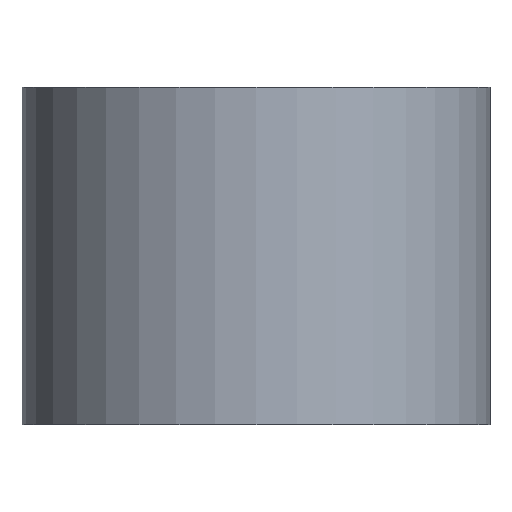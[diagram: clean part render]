
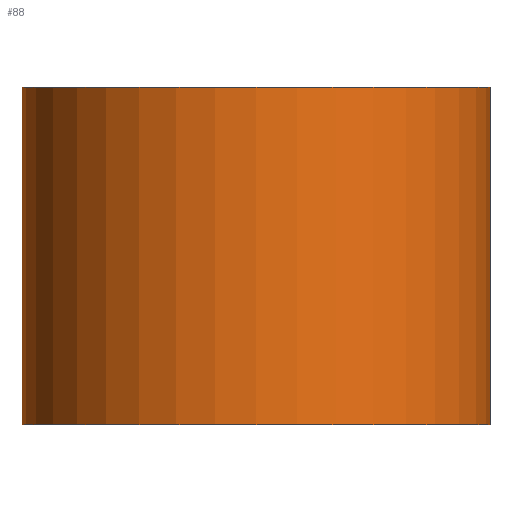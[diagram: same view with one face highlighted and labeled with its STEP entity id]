
A CAD part, front view. The second image highlights one B-rep face of the part: STEP entity #88.
In plain terms, the highlighted cylindrical face has radius 8.331 mm (diameter 16.662 mm), a partial arc.
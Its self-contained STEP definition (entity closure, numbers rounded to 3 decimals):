
#5 = CIRCLE ( 'NONE', #207, 8.331 ) ;
#7 = ORIENTED_EDGE ( 'NONE', *, *, #234, .T. ) ;
#9 = LINE ( 'NONE', #139, #240 ) ;
#17 = DIRECTION ( 'NONE',  ( 0., 0., 1. ) ) ;
#29 = CARTESIAN_POINT ( 'NONE',  ( 0., 0., 12. ) ) ;
#32 = DIRECTION ( 'NONE',  ( 1., 0., 0. ) ) ;
#48 = CARTESIAN_POINT ( 'NONE',  ( 0., 0., 12. ) ) ;
#62 = VERTEX_POINT ( 'NONE', #232 ) ;
#65 = CARTESIAN_POINT ( 'NONE',  ( -8.331, 0., 12. ) ) ;
#74 = VECTOR ( 'NONE', #227, 1000. ) ;
#80 = ORIENTED_EDGE ( 'NONE', *, *, #106, .T. ) ;
#88 = ADVANCED_FACE ( 'NONE', ( #190 ), #117, .T. ) ;
#106 = EDGE_CURVE ( 'NONE', #303, #346, #188, .T. ) ;
#117 = CYLINDRICAL_SURFACE ( 'NONE', #219, 8.331 ) ;
#133 = CARTESIAN_POINT ( 'NONE',  ( 8.331, 0., 0. ) ) ;
#139 = CARTESIAN_POINT ( 'NONE',  ( 8.331, 0., 12. ) ) ;
#140 = DIRECTION ( 'NONE',  ( 0., 0., 1. ) ) ;
#157 = ORIENTED_EDGE ( 'NONE', *, *, #309, .F. ) ;
#188 = LINE ( 'NONE', #65, #74 ) ;
#190 = FACE_OUTER_BOUND ( 'NONE', #288, .T. ) ;
#207 = AXIS2_PLACEMENT_3D ( 'NONE', #29, #17, #265 ) ;
#216 = VERTEX_POINT ( 'NONE', #133 ) ;
#219 = AXIS2_PLACEMENT_3D ( 'NONE', #48, #253, #347 ) ;
#220 = CARTESIAN_POINT ( 'NONE',  ( 0., 0., 0. ) ) ;
#225 = ORIENTED_EDGE ( 'NONE', *, *, #231, .F. ) ;
#227 = DIRECTION ( 'NONE',  ( 0., 0., -1. ) ) ;
#231 = EDGE_CURVE ( 'NONE', #303, #62, #5, .T. ) ;
#232 = CARTESIAN_POINT ( 'NONE',  ( 8.331, 0., 12. ) ) ;
#234 = EDGE_CURVE ( 'NONE', #346, #216, #298, .T. ) ;
#238 = AXIS2_PLACEMENT_3D ( 'NONE', #220, #140, #32 ) ;
#240 = VECTOR ( 'NONE', #335, 1000. ) ;
#243 = CARTESIAN_POINT ( 'NONE',  ( -8.331, 0., 12. ) ) ;
#253 = DIRECTION ( 'NONE',  ( 0., 0., -1. ) ) ;
#265 = DIRECTION ( 'NONE',  ( 1., 0., 0. ) ) ;
#288 = EDGE_LOOP ( 'NONE', ( #157, #225, #80, #7 ) ) ;
#298 = CIRCLE ( 'NONE', #238, 8.331 ) ;
#303 = VERTEX_POINT ( 'NONE', #243 ) ;
#309 = EDGE_CURVE ( 'NONE', #62, #216, #9, .T. ) ;
#310 = CARTESIAN_POINT ( 'NONE',  ( -8.331, 0., 0. ) ) ;
#335 = DIRECTION ( 'NONE',  ( 0., 0., -1. ) ) ;
#346 = VERTEX_POINT ( 'NONE', #310 ) ;
#347 = DIRECTION ( 'NONE',  ( -1., 0., 0. ) ) ;
